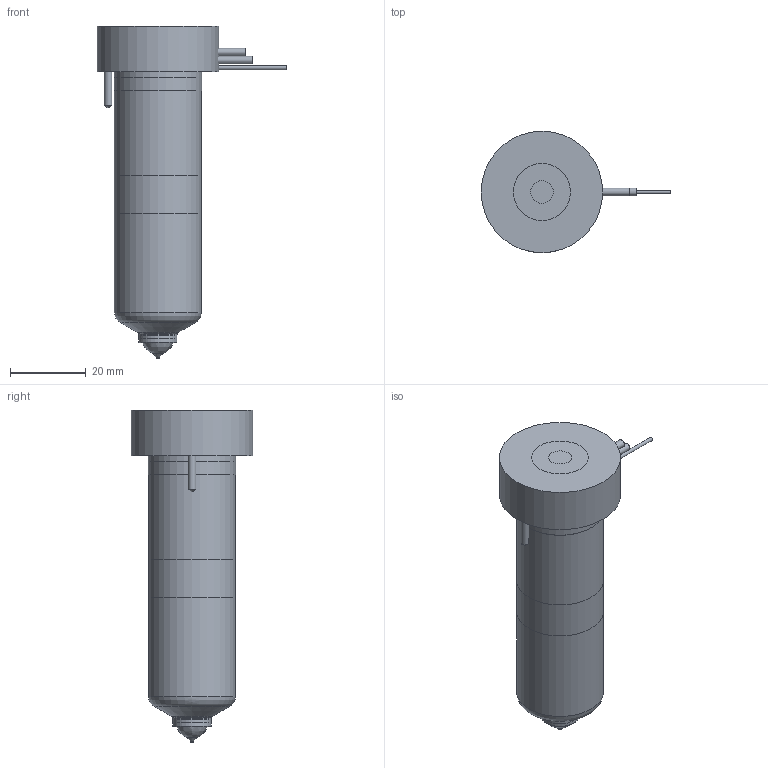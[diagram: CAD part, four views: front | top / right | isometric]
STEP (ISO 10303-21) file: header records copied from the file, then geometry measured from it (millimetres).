
FILE_DESCRIPTION(/* description */ (''),/* implementation_level */ '2;1');
FILE_NAME(/* name */ 'MXOT13075_250C_b',/* time_stamp */ '2007-01-18T09:48:49+13:00',/* author */ (''),/* organization */ (''),/* preprocessor_version */ 'ST-DEVELOPER v9',/* originating_system */ 'UGS - NX 4.0',/* authorisation */ '');
FILE_SCHEMA (('CONFIG_CONTROL_DESIGN'));
Length unit declared in the file: millimetre
Products named in the file (1): MXOT13075_250C_b
Bounding box: 49.95 x 32 x 87.45 mm (x, y, z)
Volume: 66980 mm3; surface area: 16582.3 mm2
Topology: 7 solids, 7 shells, 87 faces, 165 edges, 105 vertices
Faces by surface type: plane 36, cylinder 29, cone 11, torus 8, bspline 3
Full cylindrical faces by diameter (mm): 0.9 x1, 1 x3, 2 x4, 6 x1, 6.4 x1, 6.5 x1, 9.61 x1, 10.01 x2, 12.6 x1, 18.8 x1, 22.9 x2, 23 x2, 32 x1
Entity records: 2108 total; most frequent: CARTESIAN_POINT 453, DIRECTION 354, ORIENTED_EDGE 230, AXIS2_PLACEMENT_3D 164, EDGE_LOOP 140, EDGE_CURVE 115, VERTEX_POINT 96, ADVANCED_FACE 87
